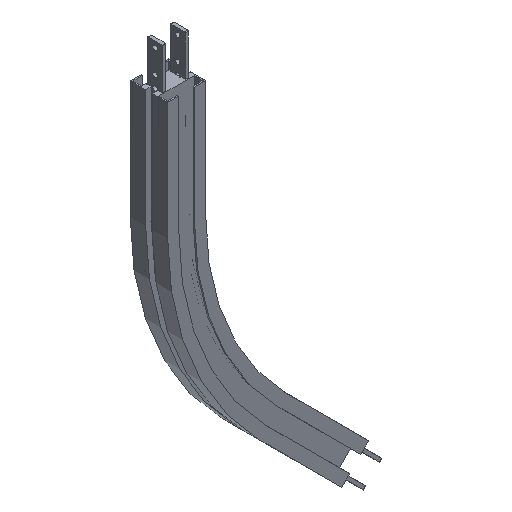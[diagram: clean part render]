
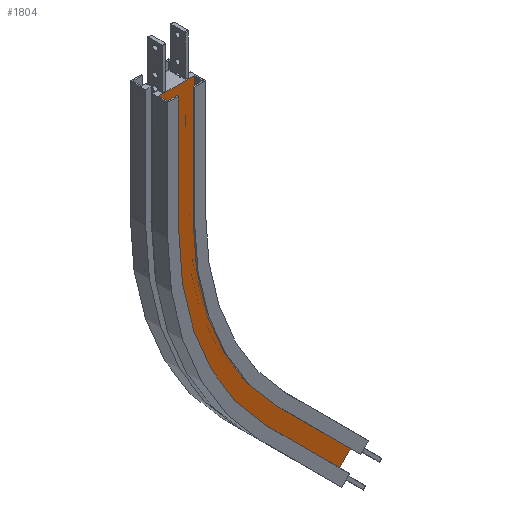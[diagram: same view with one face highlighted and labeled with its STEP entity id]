
A CAD part, isometric view. The second image highlights one B-rep face of the part: STEP entity #1804.
In plain terms, the highlighted planar face has unit normal (0, -1, 0).
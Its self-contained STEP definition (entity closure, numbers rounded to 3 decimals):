
#1701 = EDGE_CURVE ( 'NONE', #1702, #1904, #4862, .T. ) ;
#1702 = VERTEX_POINT ( 'NONE', #4858 ) ;
#1713 = VERTEX_POINT ( 'NONE', #4843 ) ;
#1754 = EDGE_CURVE ( 'NONE', #1904, #1713, #4785, .T. ) ;
#1804 = ADVANCED_FACE ( 'NONE', ( #5032 ), #5031, .T. ) ;
#1805 = EDGE_LOOP ( 'NONE', ( #1806, #1807, #1808, #1809, #1810, #1811, #1812, #1813 ) ) ;
#1806 = ORIENTED_EDGE ( 'NONE', *, *, #1997, .T. ) ;
#1807 = ORIENTED_EDGE ( 'NONE', *, *, #1984, .T. ) ;
#1808 = ORIENTED_EDGE ( 'NONE', *, *, #1701, .T. ) ;
#1809 = ORIENTED_EDGE ( 'NONE', *, *, #1754, .T. ) ;
#1810 = ORIENTED_EDGE ( 'NONE', *, *, #2027, .T. ) ;
#1811 = ORIENTED_EDGE ( 'NONE', *, *, #1854, .T. ) ;
#1812 = ORIENTED_EDGE ( 'NONE', *, *, #1841, .T. ) ;
#1813 = ORIENTED_EDGE ( 'NONE', *, *, #1857, .T. ) ;
#1839 = VERTEX_POINT ( 'NONE', #5235 ) ;
#1841 = EDGE_CURVE ( 'NONE', #1852, #1839, #5234, .T. ) ;
#1844 = VERTEX_POINT ( 'NONE', #5224 ) ;
#1852 = VERTEX_POINT ( 'NONE', #5219 ) ;
#1854 = EDGE_CURVE ( 'NONE', #2025, #1852, #5218, .T. ) ;
#1857 = EDGE_CURVE ( 'NONE', #1839, #1844, #5213, .T. ) ;
#1904 = VERTEX_POINT ( 'NONE', #5190 ) ;
#1984 = EDGE_CURVE ( 'NONE', #1995, #1702, #5387, .T. ) ;
#1995 = VERTEX_POINT ( 'NONE', #5368 ) ;
#1997 = EDGE_CURVE ( 'NONE', #1844, #1995, #5276, .T. ) ;
#2025 = VERTEX_POINT ( 'NONE', #5268 ) ;
#2027 = EDGE_CURVE ( 'NONE', #1713, #2025, #5356, .T. ) ;
#4782 = DIRECTION ( 'NONE',  ( -1., 0., 0. ) ) ;
#4783 = VECTOR ( 'NONE', #4782, 1000. ) ;
#4784 = CARTESIAN_POINT ( 'NONE',  ( 88.2, 11.6, -213.1 ) ) ;
#4785 = LINE ( 'NONE', #4784, #4783 ) ;
#4843 = CARTESIAN_POINT ( 'NONE',  ( 57.7, 11.6, -213.1 ) ) ;
#4858 = CARTESIAN_POINT ( 'NONE',  ( 118.7, 11.6, -413.1 ) ) ;
#4859 = DIRECTION ( 'NONE',  ( 0., 0., 1. ) ) ;
#4860 = VECTOR ( 'NONE', #4859, 1000. ) ;
#4861 = CARTESIAN_POINT ( 'NONE',  ( 118.7, 11.6, -213.1 ) ) ;
#4862 = LINE ( 'NONE', #4861, #4860 ) ;
#5027 = DIRECTION ( 'NONE',  ( 1., 0., 0. ) ) ;
#5028 = DIRECTION ( 'NONE',  ( 0., -1., 0. ) ) ;
#5029 = CARTESIAN_POINT ( 'NONE',  ( 88.2, 11.6, -213.1 ) ) ;
#5030 = AXIS2_PLACEMENT_3D ( 'NONE', #5029, #5028, #5027 ) ;
#5031 = PLANE ( 'NONE',  #5030 ) ;
#5032 = FACE_OUTER_BOUND ( 'NONE', #1805, .T. ) ;
#5190 = CARTESIAN_POINT ( 'NONE',  ( 118.7, 11.6, -213.1 ) ) ;
#5210 = DIRECTION ( 'NONE',  ( 0.707, 0., 0.707 ) ) ;
#5211 = VECTOR ( 'NONE', #5210, 1000. ) ;
#5212 = CARTESIAN_POINT ( 'NONE',  ( 354.501, 11.6, -929.642 ) ) ;
#5213 = LINE ( 'NONE', #5212, #5211 ) ;
#5214 = DIRECTION ( 'NONE',  ( 0., 0., 1. ) ) ;
#5215 = DIRECTION ( 'NONE',  ( 0., -1., 0. ) ) ;
#5216 = CARTESIAN_POINT ( 'NONE',  ( 588.2, 11.6, -413.1 ) ) ;
#5217 = AXIS2_PLACEMENT_3D ( 'NONE', #5216, #5215, #5214 ) ;
#5218 = CIRCLE ( 'NONE', #5217, 530.5 ) ;
#5219 = CARTESIAN_POINT ( 'NONE',  ( 213.08, 11.6, -788.22 ) ) ;
#5224 = CARTESIAN_POINT ( 'NONE',  ( 397.635, 11.6, -886.508 ) ) ;
#5231 = DIRECTION ( 'NONE',  ( 0.707, 0., -0.707 ) ) ;
#5232 = VECTOR ( 'NONE', #5231, 1000. ) ;
#5233 = CARTESIAN_POINT ( 'NONE',  ( 213.08, 11.6, -788.22 ) ) ;
#5234 = LINE ( 'NONE', #5233, #5232 ) ;
#5235 = CARTESIAN_POINT ( 'NONE',  ( 354.501, 11.6, -929.642 ) ) ;
#5268 = CARTESIAN_POINT ( 'NONE',  ( 57.7, 11.6, -413.1 ) ) ;
#5273 = DIRECTION ( 'NONE',  ( -0.707, 0., 0.707 ) ) ;
#5274 = VECTOR ( 'NONE', #5273, 1000. ) ;
#5275 = CARTESIAN_POINT ( 'NONE',  ( 397.635, 11.6, -886.508 ) ) ;
#5276 = LINE ( 'NONE', #5275, #5274 ) ;
#5353 = DIRECTION ( 'NONE',  ( 0., 0., -1. ) ) ;
#5354 = VECTOR ( 'NONE', #5353, 1000. ) ;
#5355 = CARTESIAN_POINT ( 'NONE',  ( 57.7, 11.6, -213.1 ) ) ;
#5356 = LINE ( 'NONE', #5355, #5354 ) ;
#5368 = CARTESIAN_POINT ( 'NONE',  ( 256.213, 11.6, -745.087 ) ) ;
#5379 = DIRECTION ( 'NONE',  ( 0., 0., 1. ) ) ;
#5380 = DIRECTION ( 'NONE',  ( 0., 1., 0. ) ) ;
#5381 = CARTESIAN_POINT ( 'NONE',  ( 588.2, 11.6, -413.1 ) ) ;
#5382 = AXIS2_PLACEMENT_3D ( 'NONE', #5381, #5380, #5379 ) ;
#5387 = CIRCLE ( 'NONE', #5382, 469.5 ) ;
